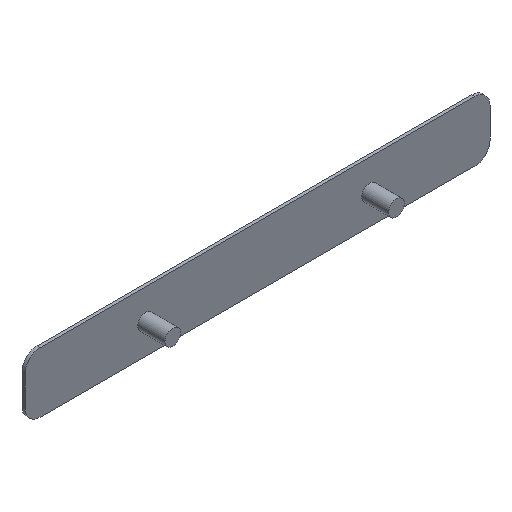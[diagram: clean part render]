
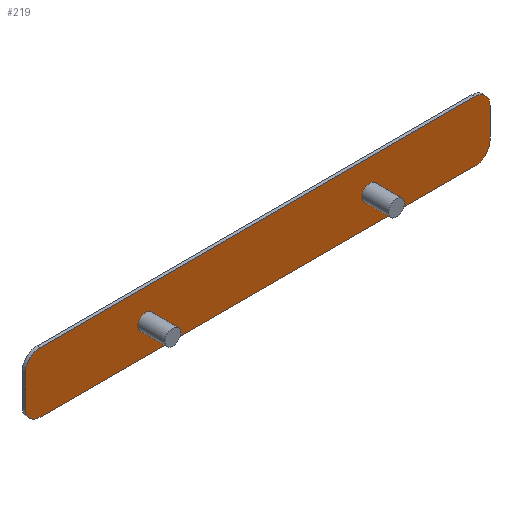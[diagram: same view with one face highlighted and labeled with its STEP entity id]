
A CAD part, isometric view. The second image highlights one B-rep face of the part: STEP entity #219.
In plain terms, the highlighted planar face has unit normal (0, -1, 0).
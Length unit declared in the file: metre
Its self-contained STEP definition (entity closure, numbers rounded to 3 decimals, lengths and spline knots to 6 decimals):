
#12=CIRCLE('',#239,0.005);
#14=CIRCLE('',#243,0.005);
#16=CIRCLE('',#247,0.005);
#18=CIRCLE('',#251,0.005);
#20=CIRCLE('',#255,0.0026);
#21=CIRCLE('',#256,0.0026);
#70=ORIENTED_EDGE('',*,*,#110,.T.);
#71=ORIENTED_EDGE('',*,*,#111,.T.);
#72=ORIENTED_EDGE('',*,*,#86,.T.);
#73=ORIENTED_EDGE('',*,*,#108,.F.);
#74=ORIENTED_EDGE('',*,*,#105,.T.);
#75=ORIENTED_EDGE('',*,*,#102,.F.);
#76=ORIENTED_EDGE('',*,*,#99,.F.);
#77=ORIENTED_EDGE('',*,*,#96,.F.);
#78=ORIENTED_EDGE('',*,*,#93,.F.);
#79=ORIENTED_EDGE('',*,*,#90,.F.);
#86=EDGE_CURVE('',#114,#115,#134,.T.);
#90=EDGE_CURVE('',#114,#118,#12,.T.);
#93=EDGE_CURVE('',#118,#120,#139,.T.);
#96=EDGE_CURVE('',#120,#122,#14,.T.);
#99=EDGE_CURVE('',#122,#124,#143,.T.);
#102=EDGE_CURVE('',#124,#126,#16,.T.);
#105=EDGE_CURVE('',#128,#126,#147,.T.);
#108=EDGE_CURVE('',#128,#115,#18,.T.);
#110=EDGE_CURVE('',#130,#130,#20,.T.);
#111=EDGE_CURVE('',#131,#131,#21,.T.);
#114=VERTEX_POINT('',#336);
#115=VERTEX_POINT('',#337);
#118=VERTEX_POINT('',#345);
#120=VERTEX_POINT('',#351);
#122=VERTEX_POINT('',#357);
#124=VERTEX_POINT('',#363);
#126=VERTEX_POINT('',#369);
#128=VERTEX_POINT('',#375);
#130=VERTEX_POINT('',#385);
#131=VERTEX_POINT('',#387);
#134=LINE('',#335,#150);
#139=LINE('',#350,#155);
#143=LINE('',#362,#159);
#147=LINE('',#374,#163);
#150=VECTOR('',#267,1.);
#155=VECTOR('',#280,1.);
#159=VECTOR('',#292,1.);
#163=VECTOR('',#304,1.);
#175=EDGE_LOOP('',(#70));
#176=EDGE_LOOP('',(#71));
#177=EDGE_LOOP('',(#72,#73,#74,#75,#76,#77,#78,#79));
#193=FACE_BOUND('',#175,.T.);
#194=FACE_BOUND('',#176,.T.);
#195=FACE_BOUND('',#177,.T.);
#207=PLANE('',#254);
#219=ADVANCED_FACE('',(#193,#194,#195),#207,.F.);
#239=AXIS2_PLACEMENT_3D('',#344,#273,#274);
#243=AXIS2_PLACEMENT_3D('',#356,#285,#286);
#247=AXIS2_PLACEMENT_3D('',#368,#297,#298);
#251=AXIS2_PLACEMENT_3D('',#380,#309,#310);
#254=AXIS2_PLACEMENT_3D('',#383,#315,#316);
#255=AXIS2_PLACEMENT_3D('',#384,#317,#318);
#256=AXIS2_PLACEMENT_3D('',#386,#319,#320);
#267=DIRECTION('',(-1.,0.,0.));
#273=DIRECTION('',(0.,1.,0.));
#274=DIRECTION('',(-1.,0.,0.));
#280=DIRECTION('',(0.,0.,-1.));
#285=DIRECTION('',(0.,1.,0.));
#286=DIRECTION('',(-1.,0.,0.));
#292=DIRECTION('',(-1.,0.,0.));
#297=DIRECTION('',(0.,1.,0.));
#298=DIRECTION('',(-1.,0.,0.));
#304=DIRECTION('',(0.,0.,-1.));
#309=DIRECTION('',(0.,1.,0.));
#310=DIRECTION('',(-1.,0.,0.));
#315=DIRECTION('',(0.,1.,0.));
#316=DIRECTION('',(-1.,0.,0.));
#317=DIRECTION('',(0.,1.,0.));
#318=DIRECTION('',(-1.,0.,0.));
#319=DIRECTION('',(0.,1.,0.));
#320=DIRECTION('',(-1.,0.,0.));
#335=CARTESIAN_POINT('',(0.082113,0.408,0.457016));
#336=CARTESIAN_POINT('',(0.154225,0.408,0.457016));
#337=CARTESIAN_POINT('',(0.01,0.408,0.457016));
#344=CARTESIAN_POINT('',(0.154225,0.408,0.452016));
#345=CARTESIAN_POINT('',(0.159225,0.408,0.452016));
#350=CARTESIAN_POINT('',(0.159225,0.408,0.447016));
#351=CARTESIAN_POINT('',(0.159225,0.408,0.442016));
#356=CARTESIAN_POINT('',(0.154225,0.408,0.442016));
#357=CARTESIAN_POINT('',(0.154225,0.408,0.437016));
#362=CARTESIAN_POINT('',(0.082113,0.408,0.437016));
#363=CARTESIAN_POINT('',(0.01,0.408,0.437016));
#368=CARTESIAN_POINT('',(0.01,0.408,0.442016));
#369=CARTESIAN_POINT('',(0.005,0.408,0.442016));
#374=CARTESIAN_POINT('',(0.005,0.408,0.447016));
#375=CARTESIAN_POINT('',(0.005,0.408,0.452016));
#380=CARTESIAN_POINT('',(0.01,0.408,0.452016));
#383=CARTESIAN_POINT('',(0.101252,0.408,0.229008));
#384=CARTESIAN_POINT('',(0.119225,0.408,0.447016));
#385=CARTESIAN_POINT('',(0.116625,0.408,0.447016));
#386=CARTESIAN_POINT('',(0.045,0.408,0.447016));
#387=CARTESIAN_POINT('',(0.0424,0.408,0.447016));
